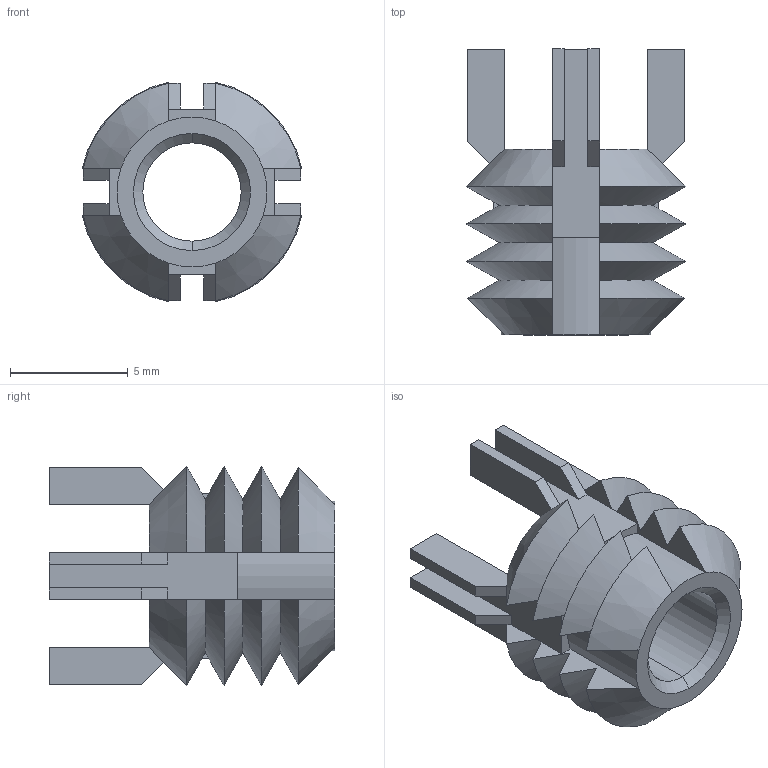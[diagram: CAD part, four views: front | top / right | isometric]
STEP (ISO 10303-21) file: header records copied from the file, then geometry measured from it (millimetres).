
FILE_DESCRIPTION (( 'STEP AP203' ), '1' );
FILE_NAME ('22034.W0320.step', '2023-04-20T09:55:00', ( '' ), ( '' ), 'SwSTEP 2.0', 'SolidWorks 2019', '' );
FILE_SCHEMA (( 'CONFIG_CONTROL_DESIGN' ));
Length unit declared in the file: millimetre
Products named in the file (1): 22034.W0320
Bounding box: 9.31 x 12.11 x 9.31 mm (x, y, z)
Volume: 290.1 mm3; surface area: 655.9 mm2
Topology: 1 solids, 1 shells, 116 faces, 298 edges, 184 vertices
Faces by surface type: plane 74, cone 36, cylinder 6
Entity records: 3611 total; most frequent: CARTESIAN_POINT 863, ORIENTED_EDGE 596, DIRECTION 496, EDGE_CURVE 298, VERTEX_POINT 184, AXIS2_PLACEMENT_3D 169, LINE 158, VECTOR 158
